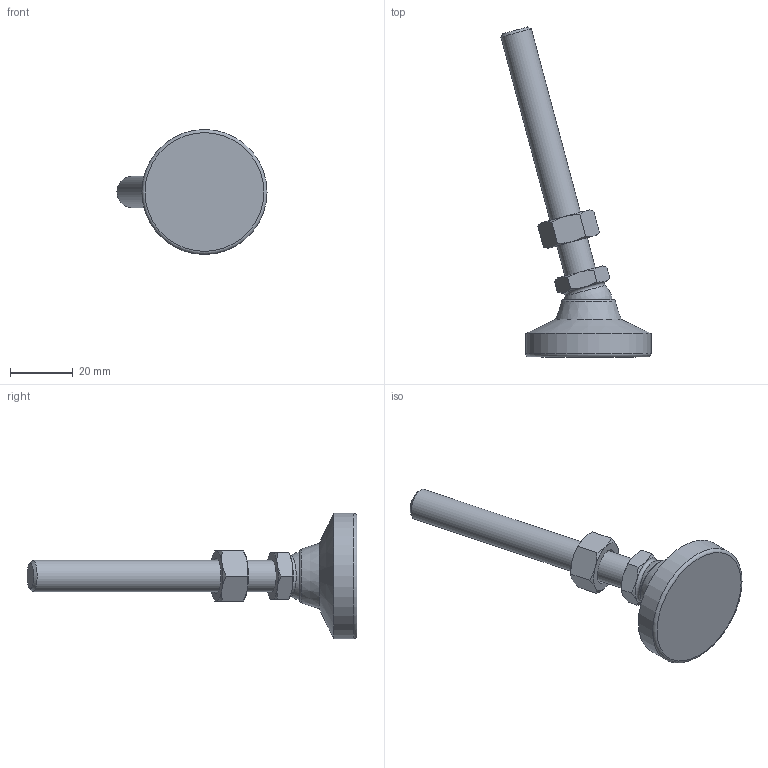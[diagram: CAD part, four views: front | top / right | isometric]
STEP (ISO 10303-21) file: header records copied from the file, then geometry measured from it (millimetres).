
FILE_DESCRIPTION( ( 'STEP AP214' ), ' ' );
FILE_NAME( 'O:/ganter_2015/teil_2/2_5/gn343_2/gn343_2_kre/Levelling foot with threaded stud GN 343.2-40-M10-80-KRE-(15).stp', '2015-10-26T09:19:04', ( '' ), ( '' ), ' ', 'PARTsolutions', ' ' );
FILE_SCHEMA( ( 'AUTOMOTIVE_DESIGN { 1 0 10303 214 1 1 1 1 }' ) );
Length unit declared in the file: millimetre
Products named in the file (4): Levelling foot with threaded stud GN 343.2-40-M10-80-KRE-(15); _Levelling foot with threaded stud GN 343.2-40-M10-80-KRE-(15)_foot; _Levelling foot with threaded stud GN 343.2-40-M10-80-KRE-(15)_screw; _Levelling foot with threaded stud GN 343.2-40-M10-80-KRE-(15)_nut
Assembly tree (3 placements, depth 2):
  Levelling foot with threaded stud GN 343.2-40-M10-80-KRE-(15)
    _Levelling foot with threaded stud GN 343.2-40-M10-80-KRE-(15)_foot
    _Levelling foot with threaded stud GN 343.2-40-M10-80-KRE-(15)_screw
    _Levelling foot with threaded stud GN 343.2-40-M10-80-KRE-(15)_nut
Bounding box: 47.96 x 105.49 x 40 mm (x, y, z)
Volume: 23829.1 mm3; surface area: 8580.6 mm2
Topology: 3 solids, 3 shells, 50 faces, 107 edges, 63 vertices
Faces by surface type: cone 24, plane 18, torus 3, cylinder 3, sphere 2
Full cylindrical faces by diameter (mm): 8.376 x1, 10 x1, 40 x1
Entity records: 1874 total; most frequent: CARTESIAN_POINT 468, DIRECTION 188, ORIENTED_EDGE 176, AXIS2_PLACEMENT_3D 88, EDGE_CURVE 88, EDGE_LOOP 66, VERTEX_POINT 60, FACE_OUTER_BOUND 56
